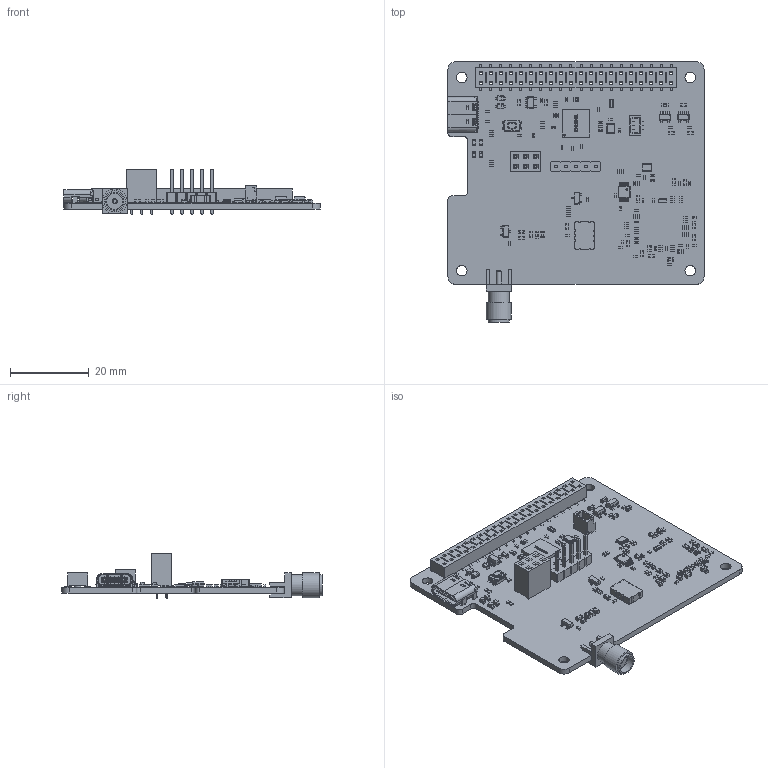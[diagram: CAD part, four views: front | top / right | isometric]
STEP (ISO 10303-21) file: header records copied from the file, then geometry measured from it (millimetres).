
FILE_DESCRIPTION(('KiCad electronic assembly'),'2;1');
FILE_NAME('daisy-catcher.step','2026-04-15T19:56:30',('Pcbnew'),('Kicad' ),'Open CASCADE STEP processor 7.9','KiCad to STEP converter', 'Unknown');
FILE_SCHEMA(('AUTOMOTIVE_DESIGN { 1 0 10303 214 1 1 1 1 }'));
Length unit declared in the file: millimetre
Products named in the file (24): daisy-catcher 1; MSOP-10_3x3mm_P0.5mm; C_0402_1005Metric; SOT-23; L_0603_1608Metric; Crystal_SMD_2520-4Pin_2.5x2.0mm; R_0402_1005Metric; SOT-23-5; C_0603_1608Metric; SAW-BodyPocket; PinHeader_1x05_P2.54mm_Vertical; PinSocket_2x03_P2.54mm_Vertical; D_SOD-323; RP2350_QFN60; LED_0603_1608Metric; USB_C_Receptacle_GCT_USB4105-xx-A_16P_TopMnt_Horizontal; KMR221GLFS; JST_SH_BM03B-SRSS-TB_1x03-1MP_P1.00mm_Vertical; SMA-J-P-H-ST-EM1; R_Array_Concave_4x0402; HLE-120-02-F-DV-BE-A; _HLE-120-02-DV-A_socket; _C-132-12-20-DV; daisy-catcher_PCB
Assembly tree (138 placements, depth 3):
  daisy-catcher 1
    MSOP-10_3x3mm_P0.5mm
    C_0402_1005Metric  x71
    SOT-23  x2
    L_0603_1608Metric  x6
    Crystal_SMD_2520-4Pin_2.5x2.0mm  x2
    R_0402_1005Metric  x18
    SOT-23-5  x3
    C_0603_1608Metric  x15
    SAW-BodyPocket
    PinHeader_1x05_P2.54mm_Vertical
    PinSocket_2x03_P2.54mm_Vertical
    D_SOD-323  x2
    RP2350_QFN60
    LED_0603_1608Metric  x4
    USB_C_Receptacle_GCT_USB4105-xx-A_16P_TopMnt_Horizontal
    KMR221GLFS
    JST_SH_BM03B-SRSS-TB_1x03-1MP_P1.00mm_Vertical
    SMA-J-P-H-ST-EM1
    R_Array_Concave_4x0402  x2
    HLE-120-02-F-DV-BE-A
      _HLE-120-02-DV-A_socket
      _C-132-12-20-DV
    daisy-catcher_PCB
Bounding box: 65 x 66.07 x 11.64 mm (x, y, z)
Volume: 7366.4 mm3; surface area: 12988.8 mm2
Topology: 172 solids, 172 shells, 7892 faces, 20807 edges, 13521 vertices
Faces by surface type: plane 5387, cylinder 2075, extrusion 184, bspline 146, torus 83, cone 17
Full cylindrical faces by diameter (mm): 0.25 x9, 0.5 x3, 0.6 x2, 0.65 x2, 0.97 x40, 1 x11, 1.27 x2, 1.587 x2, 1.78 x2, 2.7 x4, 4.1 x1, 4.25 x1, 4.63 x1, 5.35 x2, 6.33 x1
Entity records: 151331 total; most frequent: CARTESIAN_POINT 25829, ORIENTED_EDGE 22306, DIRECTION 20209, EDGE_CURVE 11153, VECTOR 9351, LINE 9167, VERTEX_POINT 7174, AXIS2_PLACEMENT_3D 5429
